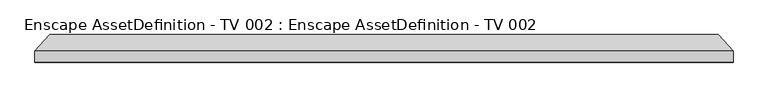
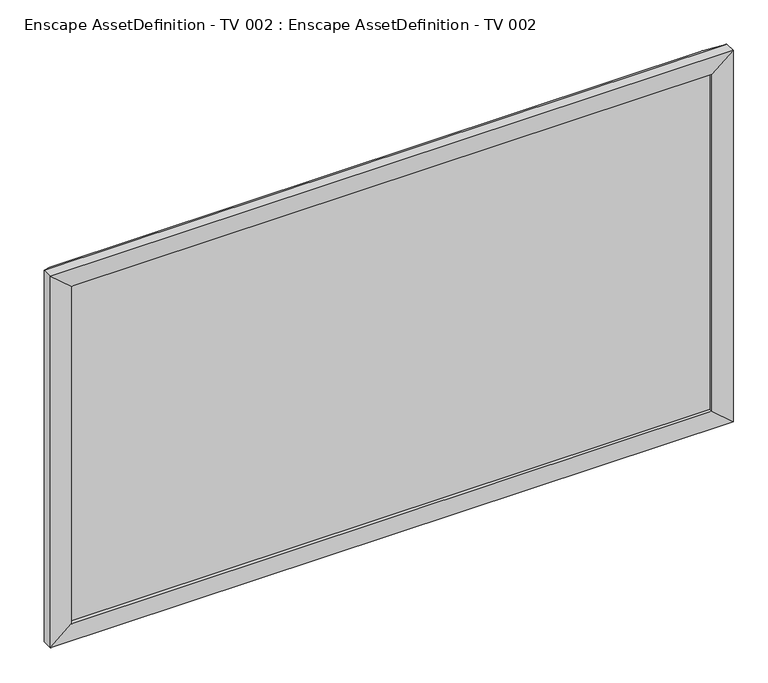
"""IFC4 building model written with IfcOpenShell, lengths in millimetres: geographic element geometry, Enscape AssetDefinition - TV 002 : Enscape AssetDefinition - TV 002."""

from ifc_helpers import new_model, si_unit, origin, place, context, project, spatial, triangles, source, transform, mapped, element, save


def enscape_assetdefinition_tv_002_enscape_assetdefinition_tv_89844956(model_context):
    return source(origin(), model_context, "Body", "Tessellation", [
        triangles([(-770.2794365, -1.6e-05, -435.1780157), (-770.2794365, 1.6e-05, 435.1780157), (770.2794365, -1.6e-05, -435.1780157), (770.2794365, 1.6e-05, 435.1780157), (804.9331352, -38.0135136, 463.1397537), (-804.9331352, -38.0135136, 463.1397537), (804.9331352, -38.0135636, -463.1397537), (-804.9331352, -38.0135636, -463.1397537), (-804.9331352, -63.5894325, 463.1397537), (-755.6992945, -62.3292941, -420.6794094), (-804.9331352, -63.5894779, -463.1397537), (755.6992945, -62.3292941, -420.6794094), (804.9331352, -63.5894779, -463.1397537), (804.9331352, -63.5894325, 463.1397537), (-755.6992945, -62.3292442, 420.6794094), (755.6992945, -53.4275437, -420.6794094), (-755.6992945, -53.4275437, -420.6794094), (755.6992945, -53.4274983, 420.6794094), (755.6992945, -62.3292442, 420.6794094), (-755.6992945, -53.4274983, 420.6794094)], [[17, 16, 18], [17, 18, 20], [20, 18, 19], [18, 16, 12], [18, 12, 19], [16, 17, 10], [16, 10, 12], [17, 20, 15], [20, 19, 15], [17, 15, 10], [14, 15, 19], [13, 14, 19], [13, 19, 12], [11, 13, 12], [11, 12, 10], [14, 9, 15], [9, 11, 10], [9, 10, 15], [9, 14, 5], [5, 7, 3], [14, 13, 7], [14, 7, 5], [13, 11, 8], [13, 8, 7], [11, 9, 6], [9, 5, 6], [11, 6, 8], [8, 6, 2], [7, 8, 1], [7, 1, 3], [8, 2, 1], [6, 5, 4], [4, 3, 1], [6, 4, 2], [5, 3, 4], [4, 1, 2]]),
    ])


if __name__ == "__main__":
    model = new_model("IFC4")
    model_context = context("Model", 3, world=origin())
    ifc_project = project(units=[si_unit("LENGTHUNIT", "METRE", prefix="MILLI")], contexts=[model_context])
    site = spatial("IfcSite", under=ifc_project)
    building = spatial("IfcBuilding", under=site)
    placement = place(None, origin())
    enscape_assetdefinition_tv_002_enscape_assetdefinition_tv_shape = enscape_assetdefinition_tv_002_enscape_assetdefinition_tv_89844956(model_context)
    element("IfcGeographicElement", 1, ObjectType="Enscape AssetDefinition - TV 002 : Enscape AssetDefinition - TV 002", at=placement, inside=building, context=model_context, shape_type="MappedRepresentation", body=[
        mapped(enscape_assetdefinition_tv_002_enscape_assetdefinition_tv_shape, transform((0.0, 0.0, 0.0), x_axis=(1.0, 0.0, 0.0), y_axis=(0.0, 1.0, 0.0), z_axis=(0.0, 0.0, 1.0))),
    ])
    save(model, "model.ifc")
